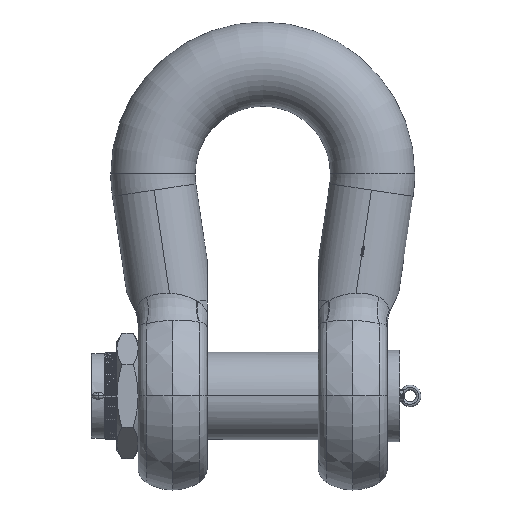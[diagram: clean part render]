
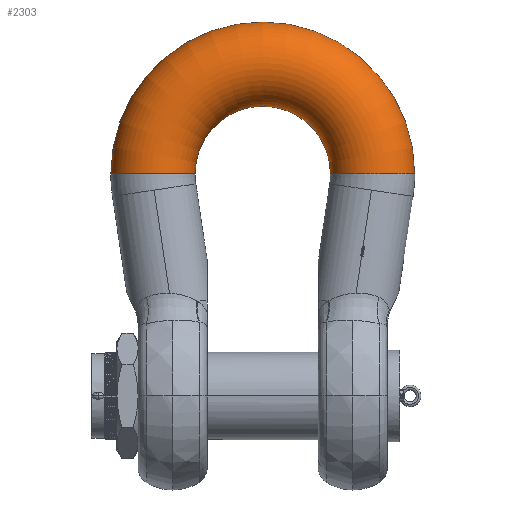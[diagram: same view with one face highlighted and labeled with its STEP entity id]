
A CAD part, front view. The second image highlights one B-rep face of the part: STEP entity #2303.
In plain terms, the highlighted toroidal (fillet/blend) face has major radius 365 mm and minor radius 139.995 mm.
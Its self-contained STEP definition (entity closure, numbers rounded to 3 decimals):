
#2303=ADVANCED_FACE('',(#5466),#5467,.T.);
#5466=FACE_OUTER_BOUND('',#12016,.T.);
#5467=TOROIDAL_SURFACE('',#12017,365.0,139.995);
#12016=EDGE_LOOP('',(#41762,#41763,#41764,#41765));
#12017=AXIS2_PLACEMENT_3D('',#41766,#41767,#41768);
#41762=ORIENTED_EDGE('',*,*,#54339,.T.);
#41763=ORIENTED_EDGE('',*,*,#54340,.F.);
#41764=ORIENTED_EDGE('',*,*,#54341,.T.);
#41765=ORIENTED_EDGE('',*,*,#54214,.F.);
#41766=CARTESIAN_POINT('',(0.0,0.0,738.0));
#41767=DIRECTION('',(0.0,-1.0,0.0));
#41768=DIRECTION('',(1.0,0.0,0.0));
#54214=EDGE_CURVE('',#62227,#62226,#62229,.F.);
#54339=EDGE_CURVE('',#62227,#62391,#62392,.F.);
#54340=EDGE_CURVE('',#62393,#62391,#62394,.T.);
#54341=EDGE_CURVE('',#62393,#62226,#62395,.T.);
#62226=VERTEX_POINT('',#78289);
#62227=VERTEX_POINT('',#78290);
#62229=CIRCLE('',#78292,139.995);
#62391=VERTEX_POINT('',#78630);
#62392=CIRCLE('',#78631,225.005);
#62393=VERTEX_POINT('',#78632);
#62394=B_SPLINE_CURVE_WITH_KNOTS('',5,(#78633,#78634,#78635,#78636,#78637,#78638,#78639,#78640,#78641,#78642,#78643,#78644,#78645,#78646,#78647,#78648,#78649,#78650,#78651,#78652,#78653,#78654,#78655,#78656),.UNSPECIFIED.,.F.,.F.,(6,3,3,3,3,3,3,6),(0.,90.171,180.342,270.513,360.683,450.854,541.025,621.977),.UNSPECIFIED.);
#62395=CIRCLE('',#78657,504.995);
#78289=CARTESIAN_POINT('',(-504.995,0.0,738.0));
#78290=CARTESIAN_POINT('',(-225.005,0.,738.0));
#78292=AXIS2_PLACEMENT_3D('',#118412,#118413,#118414);
#78630=CARTESIAN_POINT('',(225.005,0.,738.0));
#78631=AXIS2_PLACEMENT_3D('',#118419,#118420,#118421);
#78632=CARTESIAN_POINT('',(504.995,0.0,738.0));
#78633=CARTESIAN_POINT('',(504.995,0.,738.0));
#78634=CARTESIAN_POINT('',(504.995,-12.752,738.0));
#78635=CARTESIAN_POINT('',(503.543,-25.504,738.0));
#78636=CARTESIAN_POINT('',(500.639,-38.036,738.0));
#78637=CARTESIAN_POINT('',(492.028,-62.218,738.0));
#78638=CARTESIAN_POINT('',(478.202,-83.845,738.0));
#78639=CARTESIAN_POINT('',(470.081,-93.822,738.0));
#78640=CARTESIAN_POINT('',(451.712,-111.751,738.0));
#78641=CARTESIAN_POINT('',(429.782,-125.092,738.0));
#78642=CARTESIAN_POINT('',(418.1,-130.48,738.0));
#78643=CARTESIAN_POINT('',(393.717,-138.501,738.0));
#78644=CARTESIAN_POINT('',(368.154,-140.836,738.0));
#78645=CARTESIAN_POINT('',(355.293,-140.536,738.0));
#78646=CARTESIAN_POINT('',(329.867,-137.014,738.0));
#78647=CARTESIAN_POINT('',(305.884,-127.867,738.0));
#78648=CARTESIAN_POINT('',(294.466,-121.941,738.0));
#78649=CARTESIAN_POINT('',(273.18,-107.594,738.0));
#78650=CARTESIAN_POINT('',(255.665,-88.829,738.0));
#78651=CARTESIAN_POINT('',(248.018,-78.484,738.0));
#78652=CARTESIAN_POINT('',(235.868,-57.375,738.0));
#78653=CARTESIAN_POINT('',(228.516,-34.186,738.0));
#78654=CARTESIAN_POINT('',(226.175,-22.897,738.0));
#78655=CARTESIAN_POINT('',(225.005,-11.448,738.0));
#78656=CARTESIAN_POINT('',(225.005,0.,738.0));
#78657=AXIS2_PLACEMENT_3D('',#118422,#118423,#118424);
#118412=CARTESIAN_POINT('',(-365.0,0.0,738.0));
#118413=DIRECTION('',(0.,0.0,1.0));
#118414=DIRECTION('',(-1.0,0.0,0.));
#118419=CARTESIAN_POINT('',(0.0,0.,738.0));
#118420=DIRECTION('',(0.0,-1.0,0.0));
#118421=DIRECTION('',(-1.0,0.0,0.0));
#118422=CARTESIAN_POINT('',(0.0,0.,738.0));
#118423=DIRECTION('',(0.0,-1.0,0.0));
#118424=DIRECTION('',(-1.0,0.0,0.0));
